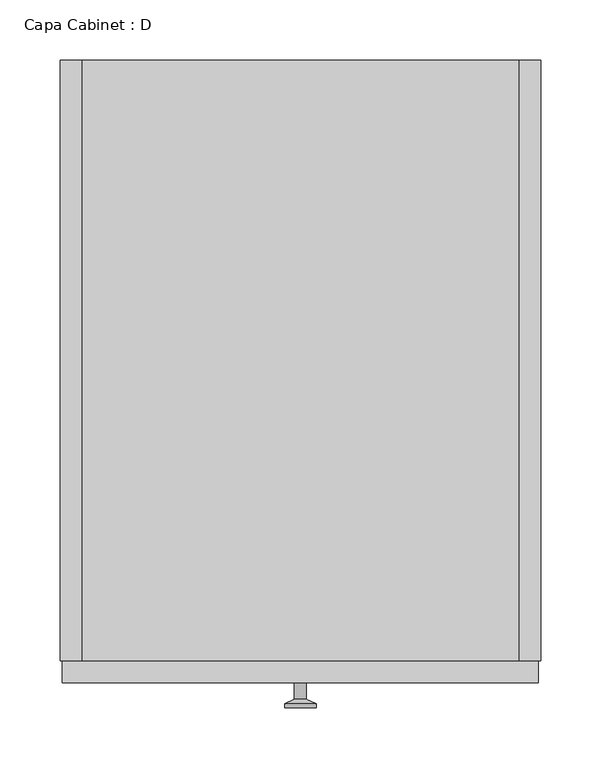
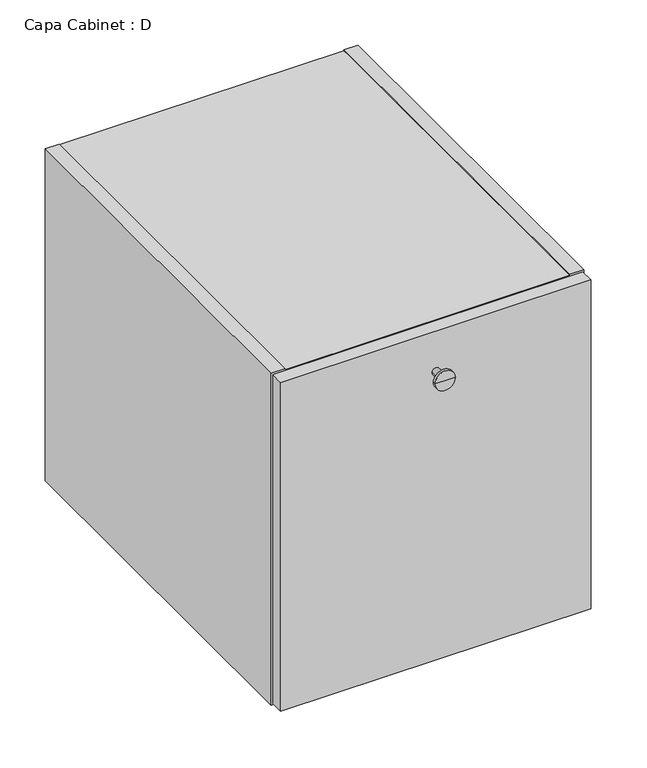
"""IFC4 building model written with IfcOpenShell, lengths in millimetres: furniture geometry, Capa Cabinet : D."""

from ifc_helpers import new_model, si_unit, frame, origin, place, context, project, spatial, polyline, circle_curve, outline, extrude, faceted_brep, source, transform, mapped, element, save
from ifc_brep_helpers import plane_surface, cylinder_surface, revolved_surface, advanced_brep


def capa_cabinet_d_f7bb802a(model_context):
    return source(origin(), model_context, "Body", "SolidModel", [
        faceted_brep([(-182.0, 500.0, 448.0), (-182.0, 500.0, 447.0), (182.0, 500.0, 447.0), (182.0, 500.0, 448.0), (200.0, 500.0, 448.0), (200.0, 500.0, 0.0), (182.0, 500.0, 0.0), (182.0, 500.0, 1.0), (-182.0, 500.0, 1.0), (-182.0, 500.0, 0.0), (-200.0, 500.0, 0.0), (-200.0, 500.0, 448.0), (182.0, 490.0, 19.0), (182.0, 490.0, 429.0), (-182.0, 490.0, 429.0), (-182.0, 490.0, 19.0), (-182.0, 0.0, 448.0), (-200.0, 0.0, 448.0), (-200.0, 0.0, 0.0), (-182.0, 0.0, 0.0), (-182.0, 0.0, 1.0), (182.0, 0.0, 1.0), (182.0, 0.0, 0.0), (200.0, 0.0, 0.0), (200.0, 0.0, 448.0), (182.0, 0.0, 448.0), (182.0, 0.0, 447.0), (-182.0, 0.0, 447.0), (182.0, 0.0, 429.0), (182.0, 0.0, 19.0), (-182.0, 0.0, 19.0), (-182.0, 0.0, 429.0)], [[[0, 1, 2, 3, 4, 5, 6, 7, 8, 9, 10, 11]], [[12, 13, 14, 15]], [[16, 17, 18, 19, 20, 21, 22, 23, 24, 25, 26, 27], [28, 29, 30, 31]], [[17, 16, 0, 11]], [[18, 17, 11, 10]], [[23, 22, 6, 5]], [[24, 23, 5, 4]], [[19, 18, 10, 9]], [[20, 19, 9, 8]], [[21, 20, 8, 7]], [[22, 21, 7, 6]], [[25, 24, 4, 3]], [[26, 25, 3, 2]], [[27, 26, 2, 1]], [[16, 27, 1, 0]], [[29, 28, 13, 12]], [[30, 29, 12, 15]], [[31, 30, 15, 14]], [[28, 31, 14, 13]]]),
        extrude(outline(polyline([(198.0, -18.0), (-198.0, -18.0), (-198.0, 0.0), (198.0, 0.0), (198.0, -18.0)])), frame((0.0, 0.0, 2.0), z_axis=(0.0, 0.0, 1.0), x_axis=(1.0, 0.0, 0.0)), (0.0, 0.0, 1.0), 444.0),
        advanced_brep(
        [(0.0, -18.0, 392.0), (5.0, -18.0, 392.0), (-5.0, -18.0, 392.0), (-13.0, -38.997134, 392.0), (13.0, -38.997134, 392.0), (0.0, -38.997134, 392.0), (-13.0, -35.5419417, 392.0), (13.0, -35.5419417, 392.0), (-5.0, -31.8114804, 392.0), (5.0, -31.8114804, 392.0)],
        [
            (0, 1),
            (1, 2, circle_curve(frame((0.0, -18.0, 392.0), z_axis=(0.0, 1.0, 0.0), x_axis=(1.0, 0.0, 0.0)), 5.0)),
            (2, 0),
            (2, 1, circle_curve(frame((0.0, -18.0, 392.0), z_axis=(0.0, 1.0, 0.0), x_axis=(1.0, 0.0, 0.0)), 5.0)),
            (3, 4, circle_curve(frame((0.0, -38.997134, 392.0), z_axis=(0.0, -1.0, 0.0), x_axis=(1.0, 0.0, 0.0)), 13.0)),
            (4, 5),
            (5, 3),
            (4, 3, circle_curve(frame((0.0, -38.997134, 392.0), z_axis=(0.0, -1.0, 0.0), x_axis=(1.0, 0.0, 0.0)), 13.0)),
            (6, 7, circle_curve(frame((0.0, -35.5419417, 392.0), z_axis=(0.0, -1.0, 0.0), x_axis=(1.0, 0.0, 0.0)), 13.0)),
            (7, 4),
            (3, 6),
            (7, 6, circle_curve(frame((0.0, -35.5419417, 392.0), z_axis=(0.0, -1.0, 0.0), x_axis=(1.0, 0.0, 0.0)), 13.0)),
            (8, 9, circle_curve(frame((0.0, -31.8114804, 392.0), z_axis=(0.0, -1.0, 0.0), x_axis=(1.0, 0.0, 0.0)), 5.0)),
            (9, 7),
            (6, 8),
            (9, 8, circle_curve(frame((0.0, -31.8114804, 392.0), z_axis=(0.0, -1.0, 0.0), x_axis=(1.0, 0.0, 0.0)), 5.0)),
            (1, 9),
            (8, 2),
        ],
        [
            plane_surface(frame((0.0, -18.0, 392.0), z_axis=(0.0, 1.0, 0.0), x_axis=(1.0, 0.0, 0.0))),
            plane_surface(frame((0.0, -38.997134, 392.0), z_axis=(0.0, -1.0, 0.0), x_axis=(1.0, 0.0, 0.0))),
            cylinder_surface(frame((0.0, -38.997134, 392.0), z_axis=(0.0, 1.0, 0.0), x_axis=(1.0, 0.0, 0.0)), 13.0),
            revolved_surface(polyline([(13.0, -35.5419417, 392.0), (5.0, -31.8114804, 392.0)]), (0.0, -38.997134, 392.0), (0.0, 1.0, 0.0)),
            cylinder_surface(frame((0.0, -38.997134, 392.0), z_axis=(0.0, 1.0, 0.0), x_axis=(1.0, 0.0, 0.0)), 5.0),
        ],
        [
            (0, [[1, 2, 3]]),
            (0, [[-3, 4, -1]]),
            (1, [[5, 6, 7]]),
            (1, [[8, -7, -6]]),
            (2, [[9, 10, -5, 11]]),
            (2, [[12, -11, -8, -10]]),
            (3, [[13, 14, -9, 15]]),
            (3, [[16, -15, -12, -14]]),
            (4, [[-2, 17, -13, 18]]),
            (4, [[-4, -18, -16, -17]]),
        ],
    ),
    ])


if __name__ == "__main__":
    model = new_model("IFC4")
    model_context = context("Model", 3, world=origin())
    ifc_project = project(units=[si_unit("LENGTHUNIT", "METRE", prefix="MILLI")], contexts=[model_context])
    site = spatial("IfcSite", under=ifc_project)
    building = spatial("IfcBuilding", under=site)
    placement = place(None, origin())
    capa_cabinet_d_shape = capa_cabinet_d_f7bb802a(model_context)
    element("IfcFurniture", 1, ObjectType="Capa Cabinet : D", at=placement, inside=building, context=model_context, shape_type="MappedRepresentation", body=[
        mapped(capa_cabinet_d_shape, transform((0.0, 0.0, 0.0), x_axis=(1.0, 0.0, 0.0), y_axis=(0.0, 1.0, 0.0), z_axis=(0.0, 0.0, 1.0))),
    ])
    save(model, "model.ifc")
